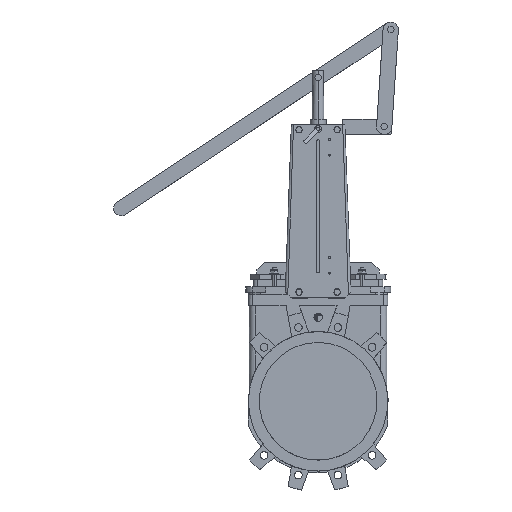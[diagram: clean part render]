
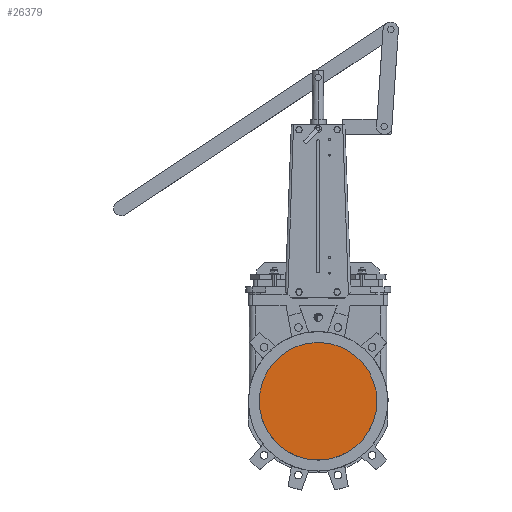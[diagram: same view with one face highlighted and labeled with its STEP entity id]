
A CAD part, top view. The second image highlights one B-rep face of the part: STEP entity #26379.
In plain terms, the highlighted planar face has unit normal (0, 0, 1).
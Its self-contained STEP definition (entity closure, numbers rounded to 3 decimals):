
#5 = CIRCLE ( 'NONE', #30, 166.5 ) ;
#10 = VECTOR ( 'NONE', #25085, 1000. ) ;
#11 = VECTOR ( 'NONE', #25088, 1000. ) ;
#30 = AXIS2_PLACEMENT_3D ( 'NONE', #25076, #25077, #25078 ) ;
#2792 = ORIENTED_EDGE ( 'NONE', *, *, #27818, .T. ) ;
#2793 = ORIENTED_EDGE ( 'NONE', *, *, #27623, .T. ) ;
#2794 = ORIENTED_EDGE ( 'NONE', *, *, #27819, .F. ) ;
#2795 = ORIENTED_EDGE ( 'NONE', *, *, #27815, .T. ) ;
#12437 = CIRCLE ( 'NONE', #12438, 175.452 ) ;
#12438 = AXIS2_PLACEMENT_3D ( 'NONE', #24497, #24498, #24499 ) ;
#15820 = AXIS2_PLACEMENT_3D ( 'NONE', #16718, #16731, #16732 ) ;
#16718 = CARTESIAN_POINT ( 'NONE',  ( -160., -232.046, 5. ) ) ;
#16728 = FACE_OUTER_BOUND ( 'NONE', #17554, .T. ) ;
#16729 = PLANE ( 'NONE',  #15820 ) ;
#16731 = DIRECTION ( 'NONE',  ( 0., 0., 1. ) ) ;
#16732 = DIRECTION ( 'NONE',  ( 1., 0., 0. ) ) ;
#17554 = EDGE_LOOP ( 'NONE', ( #2792, #2793, #2794, #2795 ) ) ;
#24497 = CARTESIAN_POINT ( 'NONE',  ( 0., 0., 5. ) ) ;
#24498 = DIRECTION ( 'NONE',  ( 0., 0., 1. ) ) ;
#24499 = DIRECTION ( 'NONE',  ( 1., 0., 0. ) ) ;
#25076 = CARTESIAN_POINT ( 'NONE',  ( 0., 10., 5. ) ) ;
#25077 = DIRECTION ( 'NONE',  ( 0., 0., 1. ) ) ;
#25078 = DIRECTION ( 'NONE',  ( 1., 0., 0. ) ) ;
#25083 = LINE ( 'NONE', #25084, #10 ) ;
#25084 = CARTESIAN_POINT ( 'NONE',  ( 160., -232.046, 5. ) ) ;
#25085 = DIRECTION ( 'NONE',  ( 0., 1., 0. ) ) ;
#25086 = LINE ( 'NONE', #25087, #11 ) ;
#25087 = CARTESIAN_POINT ( 'NONE',  ( -160., -232.046, 5. ) ) ;
#25088 = DIRECTION ( 'NONE',  ( 0., 1., 0. ) ) ;
#26088 = CARTESIAN_POINT ( 'NONE',  ( 160., -36.068, 5. ) ) ;
#26094 = CARTESIAN_POINT ( 'NONE',  ( -160., -36.068, 5. ) ) ;
#26147 = CARTESIAN_POINT ( 'NONE',  ( 160., 71.995, 5. ) ) ;
#26149 = CARTESIAN_POINT ( 'NONE',  ( -160., 71.995, 5. ) ) ;
#26379 = ADVANCED_FACE ( 'NONE', ( #16728 ), #16729, .T. ) ;
#27623 = EDGE_CURVE ( 'NONE', #28587, #28589, #12437, .T. ) ;
#27815 = EDGE_CURVE ( 'NONE', #28534, #28528, #5, .T. ) ;
#27818 = EDGE_CURVE ( 'NONE', #28528, #28587, #25083, .T. ) ;
#27819 = EDGE_CURVE ( 'NONE', #28534, #28589, #25086, .T. ) ;
#28528 = VERTEX_POINT ( 'NONE', #26088 ) ;
#28534 = VERTEX_POINT ( 'NONE', #26094 ) ;
#28587 = VERTEX_POINT ( 'NONE', #26147 ) ;
#28589 = VERTEX_POINT ( 'NONE', #26149 ) ;
